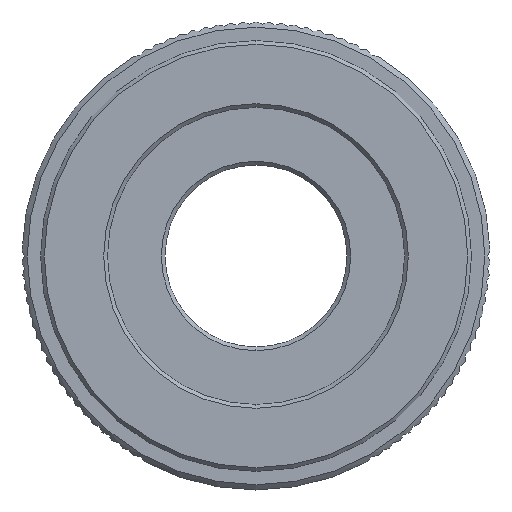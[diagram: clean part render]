
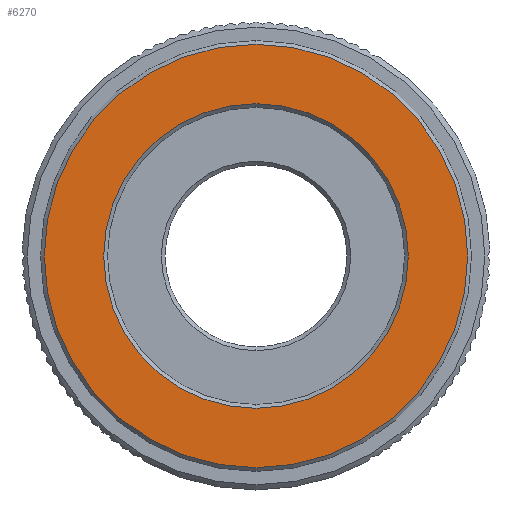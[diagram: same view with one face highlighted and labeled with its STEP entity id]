
A CAD part, left-side view. The second image highlights one B-rep face of the part: STEP entity #6270.
In plain terms, the highlighted planar face has unit normal (-1, 0, 0).
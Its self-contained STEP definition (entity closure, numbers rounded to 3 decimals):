
#133 = CIRCLE ( 'NONE', #3837, 28.5 ) ;
#331 = CARTESIAN_POINT ( 'NONE',  ( 0., 0., 28.5 ) ) ;
#540 = FACE_BOUND ( 'NONE', #6693, .T. ) ;
#676 = CARTESIAN_POINT ( 'NONE',  ( 0., 0., 20.5 ) ) ;
#957 = DIRECTION ( 'NONE',  ( 0., 0., -1. ) ) ;
#1099 = ORIENTED_EDGE ( 'NONE', *, *, #3711, .T. ) ;
#1852 = DIRECTION ( 'NONE',  ( 0., 0., -1. ) ) ;
#1901 = VERTEX_POINT ( 'NONE', #331 ) ;
#2024 = DIRECTION ( 'NONE',  ( -1., 0., 0. ) ) ;
#2076 = ORIENTED_EDGE ( 'NONE', *, *, #5266, .T. ) ;
#2101 = CIRCLE ( 'NONE', #6503, 20.5 ) ;
#2200 = CARTESIAN_POINT ( 'NONE',  ( 0., 0., -20.5 ) ) ;
#2766 = CIRCLE ( 'NONE', #4805, 28.5 ) ;
#3207 = FACE_OUTER_BOUND ( 'NONE', #5327, .T. ) ;
#3238 = CARTESIAN_POINT ( 'NONE',  ( 0., 0., 0. ) ) ;
#3616 = AXIS2_PLACEMENT_3D ( 'NONE', #5000, #5547, #6105 ) ;
#3711 = EDGE_CURVE ( 'NONE', #1901, #6454, #133, .T. ) ;
#3837 = AXIS2_PLACEMENT_3D ( 'NONE', #6409, #2024, #957 ) ;
#3897 = CIRCLE ( 'NONE', #3616, 20.5 ) ;
#3935 = VERTEX_POINT ( 'NONE', #2200 ) ;
#4458 = ORIENTED_EDGE ( 'NONE', *, *, #5855, .T. ) ;
#4643 = ORIENTED_EDGE ( 'NONE', *, *, #6284, .T. ) ;
#4651 = CARTESIAN_POINT ( 'NONE',  ( 0., 0., 0. ) ) ;
#4664 = AXIS2_PLACEMENT_3D ( 'NONE', #6308, #6287, #1852 ) ;
#4805 = AXIS2_PLACEMENT_3D ( 'NONE', #4651, #5748, #6851 ) ;
#5000 = CARTESIAN_POINT ( 'NONE',  ( 0., 0., 0. ) ) ;
#5153 = PLANE ( 'NONE',  #4664 ) ;
#5266 = EDGE_CURVE ( 'NONE', #3935, #5963, #2101, .T. ) ;
#5327 = EDGE_LOOP ( 'NONE', ( #4643, #1099 ) ) ;
#5547 = DIRECTION ( 'NONE',  ( 1., 0., 0. ) ) ;
#5748 = DIRECTION ( 'NONE',  ( -1., 0., 0. ) ) ;
#5776 = CARTESIAN_POINT ( 'NONE',  ( 0., 0., -28.5 ) ) ;
#5855 = EDGE_CURVE ( 'NONE', #5963, #3935, #3897, .T. ) ;
#5963 = VERTEX_POINT ( 'NONE', #676 ) ;
#6105 = DIRECTION ( 'NONE',  ( 0., 0., -1. ) ) ;
#6270 = ADVANCED_FACE ( 'NONE', ( #540, #3207 ), #5153, .F. ) ;
#6284 = EDGE_CURVE ( 'NONE', #6454, #1901, #2766, .T. ) ;
#6287 = DIRECTION ( 'NONE',  ( 1., 0., 0. ) ) ;
#6308 = CARTESIAN_POINT ( 'NONE',  ( 0., 20., 0. ) ) ;
#6409 = CARTESIAN_POINT ( 'NONE',  ( 0., 0., 0. ) ) ;
#6454 = VERTEX_POINT ( 'NONE', #5776 ) ;
#6503 = AXIS2_PLACEMENT_3D ( 'NONE', #3238, #6996, #7022 ) ;
#6693 = EDGE_LOOP ( 'NONE', ( #4458, #2076 ) ) ;
#6851 = DIRECTION ( 'NONE',  ( 0., 0., -1. ) ) ;
#6996 = DIRECTION ( 'NONE',  ( 1., 0., 0. ) ) ;
#7022 = DIRECTION ( 'NONE',  ( 0., 0., -1. ) ) ;
